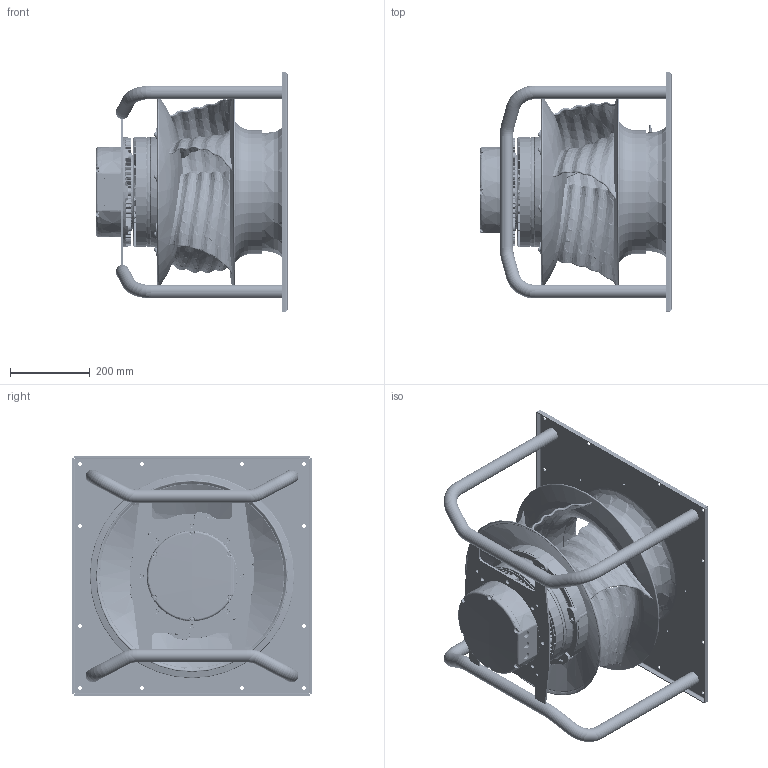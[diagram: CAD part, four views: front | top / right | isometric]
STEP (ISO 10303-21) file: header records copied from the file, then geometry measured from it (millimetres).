
FILE_DESCRIPTION((''),'2;1');
FILE_NAME('ZAC_11-12-49-KM','2020-02-20T',('moldovan'),(''),'CREO PARAMETRIC BY PTC INC, 2018070','CREO PARAMETRIC BY PTC INC, 2018070','');
FILE_SCHEMA(('AUTOMOTIVE_DESIGN { 1 0 10303 214 1 1 1 1 }'));
Length unit declared in the file: millimetre
Products named in the file (1): ZAC_11-12-49-KM
Bounding box: 484 x 600 x 600 mm (x, y, z)
Volume: 12969890.1 mm3; surface area: 3154976.1 mm2
Topology: 2 solids, 2 shells, 7517 faces, 18890 edges, 11498 vertices
Faces by surface type: bspline 2238, plane 1857, cylinder 1110, torus 1089, cone 739, extrusion 434, sphere 42, revolution 8
Entity records: 453218 total; most frequent: CARTESIAN_POINT 278605, ORIENTED_EDGE 37770, DIRECTION 29424, EDGE_CURVE 18885, AXIS2_PLACEMENT_3D 11839, VERTEX_POINT 11498, EDGE_LOOP 7865, FACE_OUTER_BOUND 7517
